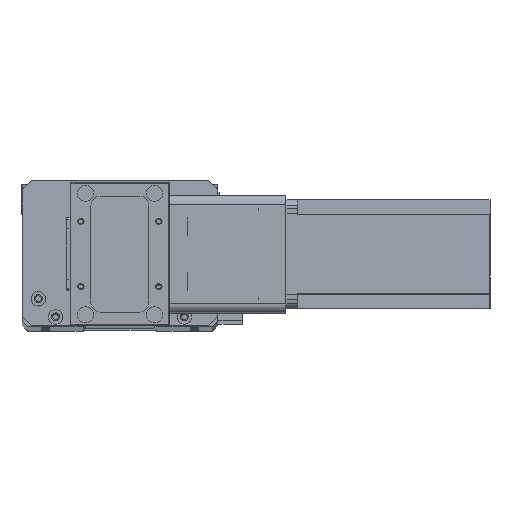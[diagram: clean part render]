
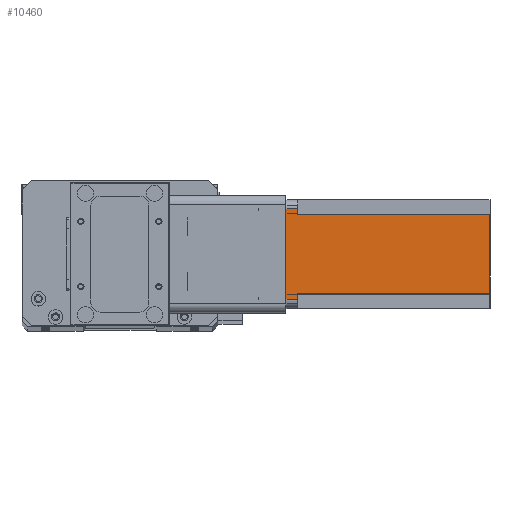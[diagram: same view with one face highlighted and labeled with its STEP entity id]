
A CAD part, top view. The second image highlights one B-rep face of the part: STEP entity #10460.
In plain terms, the highlighted planar face has unit normal (0, 0, 1) as drawn and (0, 1, 0) by its records, which use the part's own axes.
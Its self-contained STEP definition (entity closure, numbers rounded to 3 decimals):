
#309 = FACE_OUTER_BOUND ( 'NONE', #26125, .T. ) ;
#524 = CARTESIAN_POINT ( 'NONE',  ( 0., 60., -112.5 ) ) ;
#965 = VECTOR ( 'NONE', #15415, 1000. ) ;
#1080 = ORIENTED_EDGE ( 'NONE', *, *, #1190, .T. ) ;
#1190 = EDGE_CURVE ( 'NONE', #3072, #23341, #24957, .T. ) ;
#1763 = LINE ( 'NONE', #24596, #23725 ) ;
#2385 = EDGE_CURVE ( 'NONE', #17720, #17025, #18232, .T. ) ;
#3072 = VERTEX_POINT ( 'NONE', #22094 ) ;
#3910 = EDGE_CURVE ( 'NONE', #5938, #17720, #17480, .T. ) ;
#4958 = ORIENTED_EDGE ( 'NONE', *, *, #12939, .F. ) ;
#5907 = CARTESIAN_POINT ( 'NONE',  ( 52., 60., -112.5 ) ) ;
#5938 = VERTEX_POINT ( 'NONE', #7790 ) ;
#6210 = ORIENTED_EDGE ( 'NONE', *, *, #3910, .T. ) ;
#6769 = VECTOR ( 'NONE', #11383, 1000. ) ;
#7098 = EDGE_CURVE ( 'NONE', #12438, #17025, #20361, .T. ) ;
#7123 = CARTESIAN_POINT ( 'NONE',  ( 0., 60., -112.5 ) ) ;
#7790 = CARTESIAN_POINT ( 'NONE',  ( 8., 60., -6.5 ) ) ;
#9255 = DIRECTION ( 'NONE',  ( 0., 0., 1. ) ) ;
#9259 = ORIENTED_EDGE ( 'NONE', *, *, #21392, .F. ) ;
#9653 = VECTOR ( 'NONE', #25053, 1000. ) ;
#9883 = CARTESIAN_POINT ( 'NONE',  ( 55., 60., -6.5 ) ) ;
#9963 = ORIENTED_EDGE ( 'NONE', *, *, #7098, .F. ) ;
#10460 = ADVANCED_FACE ( 'NONE', ( #309 ), #19916, .T. ) ;
#11383 = DIRECTION ( 'NONE',  ( -1., 0., 0. ) ) ;
#11784 = CARTESIAN_POINT ( 'NONE',  ( 8., 60., -112.5 ) ) ;
#12307 = CARTESIAN_POINT ( 'NONE',  ( 0., 60., 0. ) ) ;
#12438 = VERTEX_POINT ( 'NONE', #14829 ) ;
#12780 = ORIENTED_EDGE ( 'NONE', *, *, #23255, .F. ) ;
#12939 = EDGE_CURVE ( 'NONE', #3072, #23643, #17160, .T. ) ;
#13176 = CARTESIAN_POINT ( 'NONE',  ( 8., 60., -112.5 ) ) ;
#14338 = CARTESIAN_POINT ( 'NONE',  ( 52., 60., -6.5 ) ) ;
#14505 = EDGE_CURVE ( 'NONE', #12438, #20685, #1763, .T. ) ;
#14829 = CARTESIAN_POINT ( 'NONE',  ( 55., 60., 0. ) ) ;
#15415 = DIRECTION ( 'NONE',  ( -1., 0., 0. ) ) ;
#15696 = CARTESIAN_POINT ( 'NONE',  ( 52., 60., -6.5 ) ) ;
#15899 = AXIS2_PLACEMENT_3D ( 'NONE', #7123, #22066, #9255 ) ;
#16123 = DIRECTION ( 'NONE',  ( 0., 0., -1. ) ) ;
#16329 = VECTOR ( 'NONE', #17462, 1000. ) ;
#16508 = VECTOR ( 'NONE', #18731, 1000. ) ;
#16994 = LINE ( 'NONE', #13176, #16329 ) ;
#17025 = VERTEX_POINT ( 'NONE', #27550 ) ;
#17160 = LINE ( 'NONE', #5907, #16508 ) ;
#17462 = DIRECTION ( 'NONE',  ( 0., 0., -1. ) ) ;
#17480 = LINE ( 'NONE', #26309, #6769 ) ;
#17543 = VECTOR ( 'NONE', #24260, 1000. ) ;
#17720 = VERTEX_POINT ( 'NONE', #21624 ) ;
#17786 = CARTESIAN_POINT ( 'NONE',  ( 5., 60., -112.5 ) ) ;
#18140 = ORIENTED_EDGE ( 'NONE', *, *, #14505, .T. ) ;
#18232 = LINE ( 'NONE', #17786, #23876 ) ;
#18731 = DIRECTION ( 'NONE',  ( 0., 0., 1. ) ) ;
#19916 = PLANE ( 'NONE',  #15899 ) ;
#19921 = DIRECTION ( 'NONE',  ( 0., 0., 1. ) ) ;
#20361 = LINE ( 'NONE', #12307, #9653 ) ;
#20685 = VERTEX_POINT ( 'NONE', #9883 ) ;
#21392 = EDGE_CURVE ( 'NONE', #5938, #23341, #16994, .T. ) ;
#21624 = CARTESIAN_POINT ( 'NONE',  ( 5., 60., -6.5 ) ) ;
#22066 = DIRECTION ( 'NONE',  ( 0., 1., 0. ) ) ;
#22094 = CARTESIAN_POINT ( 'NONE',  ( 52., 60., -112.5 ) ) ;
#23203 = LINE ( 'NONE', #15696, #17543 ) ;
#23255 = EDGE_CURVE ( 'NONE', #23643, #20685, #23203, .T. ) ;
#23341 = VERTEX_POINT ( 'NONE', #11784 ) ;
#23643 = VERTEX_POINT ( 'NONE', #14338 ) ;
#23725 = VECTOR ( 'NONE', #16123, 1000. ) ;
#23876 = VECTOR ( 'NONE', #19921, 1000. ) ;
#23903 = ORIENTED_EDGE ( 'NONE', *, *, #2385, .T. ) ;
#24260 = DIRECTION ( 'NONE',  ( 1., 0., 0. ) ) ;
#24596 = CARTESIAN_POINT ( 'NONE',  ( 55., 60., -112.5 ) ) ;
#24957 = LINE ( 'NONE', #524, #965 ) ;
#25053 = DIRECTION ( 'NONE',  ( -1., 0., 0. ) ) ;
#26125 = EDGE_LOOP ( 'NONE', ( #9963, #18140, #12780, #4958, #1080, #9259, #6210, #23903 ) ) ;
#26309 = CARTESIAN_POINT ( 'NONE',  ( 8., 60., -6.5 ) ) ;
#27550 = CARTESIAN_POINT ( 'NONE',  ( 5., 60., 0. ) ) ;
